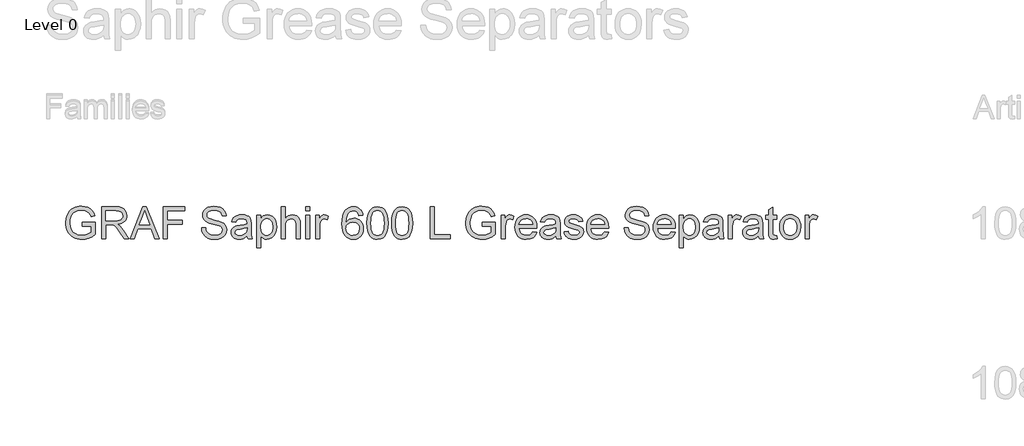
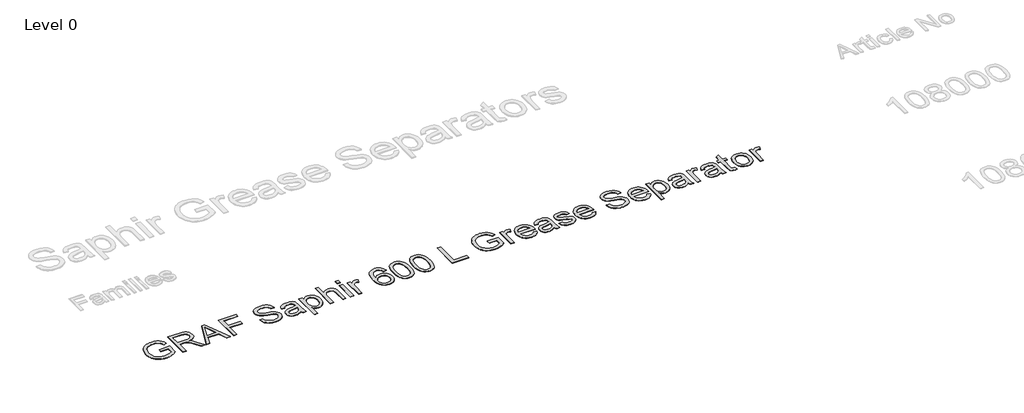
# One storey, part 5 of 15: 1 proxy.
"""IFC4 building model written with IfcOpenShell, lengths in millimetres."""

from ifc_helpers import new_model, si_unit, origin, origin_with_axes, place, context, project, spatial, polyline, outline, extrude, element, save

model = new_model("IFC4")

# Units and contexts
model_context = context("Model", 3, world=origin())
ifc_project = project(units=[si_unit("LENGTHUNIT", "METRE", prefix="MILLI")], contexts=[model_context])

# Site, building, storey
site = spatial("IfcSite", under=ifc_project)
building = spatial("IfcBuilding", under=site)
storey = spatial("IfcBuildingStorey", under=building, Name="Level 0", Elevation=0.0)

# Proxy
placement = place(None, origin())
element("IfcBuildingElementProxy", 1, Name="400mm Arial", ObjectType="400mm Arial", at=placement, inside=storey, context=model_context, shape_type="SweptSolid", body=[
    extrude(outline(polyline([(-14937.8149833, 10305.9861864), (-14937.8149833, 10356.2143415), (-14774.5734793, 10356.2143415), (-14774.5734793, 10206.0203856), (-14814.2434211, 10178.429236), (-14855.1641617, 10158.6371846), (-14897.2375993, 10146.717808), (-14940.3656318, 10142.7446824), (-14969.2167773, 10144.3235093), (-14996.7128907, 10149.05999), (-15022.8539722, 10156.9541245), (-15047.6400216, 10168.0059128), (-15070.2708957, 10182.0498079), (-15089.9464511, 10198.9202631), (-15106.6666877, 10218.6172783), (-15120.4316057, 10241.1408534), (-15131.182957, 10265.770553), (-15138.8624937, 10291.7859414), (-15143.4702157, 10319.1870187), (-15145.006123, 10347.9737848), (-15138.8870191, 10404.5662984), (-15131.2381393, 10431.3818302), (-15120.5297076, 10457.2102119), (-15106.9517963, 10480.9171408), (-15090.6944778, 10501.3683141), (-15071.7577521, 10518.5637317), (-15050.1416192, 10532.5033936), (-15026.3151286, 10543.2762047), (-15000.74733, 10550.9710698), (-14973.4382232, 10555.5879888), (-14944.3878083, 10557.1269618), (-14903.0133466, 10553.5585065), (-14865.8082141, 10542.8531404), (-14834.4769309, 10525.7834158), (-14810.7240167, 10503.1218849), (-14793.1515201, 10473.7771644), (-14780.3614894, 10436.6578711), (-14826.6655698, 10423.610323), (-14837.0030539, 10450.0855639), (-14849.5723554, 10470.0615563), (-14866.2006216, 10485.1201926), (-14888.7149997, 10496.8433655), (-14915.5581226, 10504.3849464), (-14945.1726232, 10506.8988067), (-14979.8393699, 10504.1887427), (-15009.478396, 10496.0585506), (-15033.9793369, 10483.5260373), (-15053.2318279, 10467.6090096), (-15068.0084214, 10449.1290708), (-15079.0816695, 10428.9078238), (-15090.8538933, 10390.9914528), (-15094.7779679, 10350.033924), (-15090.0568157, 10302.0007981), (-15075.8933588, 10262.4780091), (-15052.7167931, 10231.7475998), (-15020.9563142, 10210.091613), (-14983.78797, 10197.2525314), (-14944.3878083, 10192.9728375), (-14909.5984343, 10196.1979363), (-14875.6674516, 10205.8732328), (-14846.2001038, 10219.2028238), (-14824.8016344, 10233.390806), (-14824.8016344, 10305.9861864), (-14937.8149833, 10305.9861864)])), origin_with_axes(), (0.0, 0.0, 1.0), 5.0),
    extrude(outline(polyline([(-14692.9527273, 10149.0232018), (-14692.9527273, 10550.8484424), (-14519.8029349, 10550.8484424), (-14473.2658625, 10548.1383784), (-14439.4084563, 10540.0081863), (-14414.6622607, 10524.9986009), (-14395.4588206, 10501.6503569), (-14383.1347737, 10472.6980439), (-14379.0267581, 10440.8762513), (-14380.7282123, 10420.2380714), (-14385.832575, 10401.2921486), (-14394.3398462, 10384.0384831), (-14406.2500258, 10368.4770747), (-14421.716398, 10355.1045642), (-14440.892247, 10344.4175922), (-14463.7775727, 10336.4161588), (-14490.3723753, 10331.100264), (-14461.8247325, 10309.6159554), (-14421.1124584, 10257.9162724), (-14354.1088843, 10149.0232018), (-14412.4794942, 10149.0232018), (-14464.7677885, 10232.3116855), (-14502.5370066, 10287.4449339), (-14516.5778361, 10303.5213771), (-14529.0735612, 10313.4909791), (-14552.9613654, 10323.055911), (-14582.0976194, 10324.8217446), (-14642.7245723, 10324.8217446), (-14642.7245723, 10149.0232018), (-14692.9527273, 10149.0232018)]), holes=[polyline([(-14642.7245723, 10375.0498997), (-14530.2998345, 10375.0498997), (-14498.0120581, 10376.827996), (-14472.9592942, 10382.1622849), (-14454.0992106, 10391.4083857), (-14440.3894749, 10404.9219177), (-14432.0385536, 10421.268141), (-14429.2549132, 10439.0123159), (-14434.5646766, 10463.5132568), (-14450.493967, 10483.2562572), (-14462.6555327, 10490.8530204), (-14477.9011757, 10496.2792798), (-14517.6446939, 10500.6202873), (-14642.7245723, 10500.6202873), (-14642.7245723, 10375.0498997)])]), origin_with_axes(), (0.0, 0.0, 1.0), 5.0),
    extrude(outline(polyline([(-14337.9220765, 10149.0232018), (-14177.5255266, 10550.8484424), (-14134.7531133, 10550.8484424), (-13974.3565634, 10149.0232018), (-14027.4296726, 10149.0232018), (-14073.4394475, 10274.5935895), (-14238.9372943, 10274.5935895), (-14284.8489673, 10149.0232018), (-14337.9220765, 10149.0232018)]), holes=[polyline([(-14220.4941437, 10324.8217446), (-14091.7844963, 10324.8217446), (-14127.9840846, 10423.610323), (-14156.13932, 10500.6202873), (-14181.1552956, 10432.2432872), (-14220.4941437, 10324.8217446)])]), origin_with_axes(), (0.0, 0.0, 1.0), 5.0),
    extrude(outline(polyline([(-13920.6948431, 10149.0232018), (-13920.6948431, 10550.8484424), (-13650.7185095, 10550.8484424), (-13650.7185095, 10500.6202873), (-13870.466688, 10500.6202873), (-13870.466688, 10381.328419), (-13682.1111064, 10381.328419), (-13682.1111064, 10331.100264), (-13870.466688, 10331.100264), (-13870.466688, 10149.0232018), (-13920.6948431, 10149.0232018)])), origin_with_axes(), (0.0, 0.0, 1.0), 5.0),
    extrude(outline(polyline([(-13443.5273698, 10287.1506283), (-13393.2992148, 10287.1506283), (-13387.5357302, 10259.2774358), (-13377.112407, 10236.8734223), (-13360.8520228, 10219.0924592), (-13337.5773552, 10205.0884179), (-13309.1278143, 10196.0017326), (-13277.3428099, 10192.9728375), (-13249.3592528, 10195.2659686), (-13224.8583119, 10202.1453619), (-13205.0049469, 10213.034669), (-13190.9641174, 10227.3575413), (-13182.6131961, 10243.8018665), (-13179.8295557, 10261.0555321), (-13181.9142203, 10277.8677393), (-13188.1682143, 10292.3990781), (-13200.8724058, 10304.7967013), (-13222.3076634, 10315.2077618), (-13295.4426041, 10334.3866765), (-13343.4512044, 10347.0786053), (-13374.169351, 10359.1573975), (-13399.173064, 10376.0554438), (-13416.8927134, 10396.5342082), (-13427.4509267, 10420.1522323), (-13430.9703311, 10446.4680577), (-13426.6170608, 10475.8863545), (-13413.55725, 10503.3180886), (-13392.1342551, 10526.5682307), (-13362.6914328, 10543.4417516), (-13327.3502358, 10553.7056592), (-13288.2321169, 10557.1269618), (-13245.8521111, 10553.5462437), (-13208.769606, 10542.8040895), (-13178.3089768, 10525.1212282), (-13155.7945987, 10500.7183892), (-13141.5453027, 10471.1161513), (-13135.87992, 10437.8350935), (-13186.1080751, 10437.8350935), (-13195.3296504, 10467.8052134), (-13203.6928345, 10479.6632764), (-13214.557616, 10489.4366747), (-13244.6013123, 10502.5332737), (-13286.2700796, 10506.8988067), (-13328.9198656, 10502.5823247), (-13345.2231694, 10497.1867221), (-13358.178747, 10489.6328784), (-13375.1013187, 10470.5765911), (-13380.742176, 10447.9395856), (-13376.744525, 10428.6380436), (-13364.7515719, 10413.1134234), (-13336.4001328, 10399.2320095), (-13282.7384125, 10385.0562899), (-13227.3599095, 10371.5918089), (-13193.8581224, 10359.8441105), (-13165.2246405, 10341.621689), (-13145.2486482, 10319.1318364), (-13133.5132125, 10292.6198073), (-13129.6014006, 10262.3308563), (-13134.1018237, 10231.3674551), (-13147.6030929, 10202.2434638), (-13169.5533853, 10177.1784372), (-13199.4008778, 10158.39193), (-13235.2938978, 10146.6564943), (-13275.3807726, 10142.7446824), (-13324.5911208, 10146.9630626), (-13365.0949285, 10159.6182033), (-13397.3581794, 10180.7591553), (-13421.8468576, 10210.4349695), (-13437.5676815, 10246.5855069), (-13443.5273698, 10287.1506283)])), origin_with_axes(), (0.0, 0.0, 1.0), 5.0),
    extrude(outline(polyline([(-12872.1821059, 10186.6943181), (-12896.1802747, 10166.1174519), (-12920.889682, 10152.6529708), (-12946.8744136, 10145.2217545), (-12974.6985552, 10142.7446824), (-12997.0627148, 10144.2346045), (-13016.6738908, 10148.7043708), (-13033.5320833, 10156.1539812), (-13047.6372921, 10166.5834357), (-13058.7749195, 10179.3305469), (-13066.7303676, 10193.733127), (-13071.5036365, 10209.7911761), (-13073.0947262, 10227.5046941), (-13070.6912305, 10248.3268151), (-13063.4807434, 10267.2359496), (-13052.3584444, 10283.4227574), (-13038.219513, 10296.077898), (-13021.6035096, 10305.6428299), (-13003.0499943, 10312.5590114), (-12959.5908679, 10320.112855), (-12908.2345414, 10328.0591061), (-12872.4764115, 10337.3787834), (-12872.1821059, 10348.562396), (-12875.6401966, 10370.9786722), (-12886.0144689, 10385.6449011), (-12909.21556, 10396.5342082), (-12941.5401247, 10400.1639772), (-12971.4611936, 10397.7482188), (-12992.356891, 10390.5009435), (-13006.6061869, 10377.0977761), (-13016.5880517, 10356.2143415), (-13066.8162068, 10362.4928609), (-13058.0974035, 10389.9613832), (-13045.0866436, 10411.5437936), (-13026.5699165, 10428.0494324), (-13001.3332116, 10440.2876401), (-12970.4679122, 10447.8660092), (-12935.0654016, 10450.3921323), (-12901.1098934, 10448.1603148), (-12874.1931941, 10441.4648625), (-12853.8983707, 10431.3971586), (-12839.8084903, 10419.0485863), (-12830.4642876, 10403.7814835), (-12824.4064974, 10384.9581881), (-12821.9539508, 10341.0085524), (-12821.9539508, 10278.5176641), (-12819.4033023, 10191.2560549), (-12809.396912, 10149.0232018), (-12859.6250671, 10149.0232018), (-12867.6694201, 10166.4853339), (-12872.1821059, 10186.6943181)]), holes=[polyline([(-12872.1821059, 10287.1506283), (-12905.9291476, 10278.7874443), (-12953.2142467, 10271.7486354), (-12996.4281184, 10263.6061806), (-13007.6730447, 10258.0388997), (-13015.9994405, 10250.3624288), (-13021.1497884, 10241.1653789), (-13022.8665711, 10231.0363613), (-13019.1264375, 10216.1003523), (-13007.9060366, 10203.8621446), (-12989.4506232, 10195.6951643), (-12964.0054519, 10192.9728375), (-12937.0274389, 10195.9772071), (-12913.1886856, 10204.990316), (-12893.8626181, 10218.270856), (-12880.4226626, 10234.0775191), (-12874.4629742, 10250.3624288), (-12872.4764115, 10272.9258578), (-12872.1821059, 10287.1506283)])]), origin_with_axes(), (0.0, 0.0, 1.0), 5.0),
    extrude(outline(polyline([(-12752.8902376, 10036.0098529), (-12752.8902376, 10444.1136129), (-12702.6620825, 10444.1136129), (-12702.6620825, 10394.8664765), (-12686.279071, 10419.1589509), (-12667.9340221, 10436.5107183), (-12646.5478155, 10446.9217788), (-12621.0413305, 10450.3921323), (-12587.0735596, 10445.5360899), (-12557.3732199, 10430.9679629), (-12533.19111, 10407.570668), (-12515.7780289, 10376.227122), (-12505.2566039, 10339.2181933), (-12501.7494622, 10298.8247503), (-12505.710325, 10255.868396), (-12517.5929134, 10217.4492529), (-12537.0170828, 10185.5170957), (-12563.6026883, 10162.021699), (-12594.5660896, 10147.5639366), (-12627.1236461, 10142.7446824), (-12650.2143727, 10145.9697813), (-12670.8280272, 10155.6450777), (-12688.4741002, 10170.2499929), (-12702.6620825, 10188.263948), (-12702.6620825, 10036.0098529), (-12752.8902376, 10036.0098529)]), holes=[polyline([(-12702.6620825, 10294.2139626), (-12697.2296917, 10249.1852064), (-12690.4392032, 10231.7475998), (-12680.9325193, 10217.6945076), (-12656.8852996, 10199.153255), (-12643.1234473, 10194.5179419), (-12628.2027667, 10192.9728375), (-12613.0674882, 10194.5731242), (-12599.0542499, 10199.3739842), (-12586.1630517, 10207.3754176), (-12574.3938935, 10218.5774244), (-12564.5867726, 10233.13942), (-12557.5816863, 10251.2208201), (-12553.3786345, 10272.8216246), (-12551.9776173, 10297.9418335), (-12557.4467963, 10342.725335), (-12564.28327, 10360.2978317), (-12573.8543332, 10374.6574922), (-12597.8647648, 10393.7873559), (-12611.4702673, 10398.5698219), (-12626.1426275, 10400.1639772), (-12640.7690025, 10398.4686543), (-12654.5308548, 10393.3826858), (-12679.4609913, 10373.0388114), (-12689.6114687, 10357.9403212), (-12696.8618097, 10339.7700163), (-12701.2120143, 10318.5278968), (-12702.6620825, 10294.2139626)])]), origin_with_axes(), (0.0, 0.0, 1.0), 5.0),
    extrude(outline(polyline([(-12445.2427877, 10149.0232018), (-12445.2427877, 10550.8484424), (-12395.0146327, 10550.8484424), (-12395.0146327, 10403.1070332), (-12376.5653506, 10423.794264), (-12355.8474629, 10438.5708575), (-12332.8609696, 10447.4368136), (-12307.6058706, 10450.3921323), (-12277.2678687, 10447.1670334), (-12251.197298, 10437.491737), (-12230.6694827, 10422.1265323), (-12216.959747, 10401.8317089), (-12209.2342251, 10373.9462537), (-12206.6590511, 10335.8091535), (-12206.6590511, 10149.0232018), (-12256.8872062, 10149.0232018), (-12256.8872062, 10330.6097546), (-12260.8848572, 10362.0514025), (-12272.8778103, 10383.5847619), (-12292.2038777, 10396.0191734), (-12318.2008721, 10400.1639772), (-12339.4276632, 10397.368074), (-12359.3546046, 10388.9803645), (-12375.8602434, 10375.8101891), (-12386.8231269, 10358.6668881), (-12392.9667562, 10335.8827299), (-12395.0146327, 10305.7899827), (-12395.0146327, 10149.0232018), (-12445.2427877, 10149.0232018)])), origin_with_axes(), (0.0, 0.0, 1.0), 5.0),
    extrude(outline(polyline([(-12137.5953379, 10500.6202873), (-12137.5953379, 10550.8484424), (-12087.3671828, 10550.8484424), (-12087.3671828, 10500.6202873), (-12137.5953379, 10500.6202873)])), origin_with_axes(), (0.0, 0.0, 1.0), 5.0),
    extrude(outline(polyline([(-12137.5953379, 10149.0232018), (-12137.5953379, 10444.1136129), (-12087.3671828, 10444.1136129), (-12087.3671828, 10149.0232018), (-12137.5953379, 10149.0232018)])), origin_with_axes(), (0.0, 0.0, 1.0), 5.0),
    extrude(outline(polyline([(-12012.0249502, 10149.0232018), (-12012.0249502, 10444.1136129), (-11968.0753145, 10444.1136129), (-11968.0753145, 10400.4582828), (-11951.8394558, 10425.7685641), (-11936.8789213, 10440.6800476), (-11921.8693359, 10447.9641111), (-11905.4863244, 10450.3921323), (-11880.4703487, 10446.5171086), (-11855.0619656, 10434.8920375), (-11871.8373846, 10389.8632813), (-11889.4957204, 10397.5888032), (-11907.1540561, 10400.1639772), (-11922.1513788, 10397.6869051), (-11935.5545461, 10390.2556888), (-11946.3825395, 10378.434414), (-11953.6543403, 10362.7871665), (-11959.7611814, 10334.730033), (-11961.7967951, 10304.122251), (-11961.7967951, 10149.0232018), (-12012.0249502, 10149.0232018)])), origin_with_axes(), (0.0, 0.0, 1.0), 5.0),
    extrude(outline(polyline([(-11421.8441281, 10444.1136129), (-11472.0722832, 10437.8350935), (-11480.1656871, 10462.7284418), (-11491.104045, 10479.72459), (-11513.8882033, 10495.396363), (-11541.430302, 10500.6202873), (-11564.7785459, 10497.5791295), (-11586.7533638, 10488.455656), (-11605.6257101, 10469.2399532), (-11621.0399657, 10442.7892377), (-11631.4510262, 10405.3756388), (-11635.3137871, 10353.2712855), (-11615.1661165, 10376.778945), (-11591.0207949, 10393.3458976), (-11564.2267229, 10403.1683468), (-11536.1328013, 10406.4424966), (-11511.9997424, 10404.2045478), (-11489.7306189, 10397.4907014), (-11469.3254309, 10386.3009573), (-11450.7841784, 10370.6353157), (-11435.3760541, 10351.4257442), (-11424.3702511, 10329.6042105), (-11417.7667693, 10305.1707147), (-11415.5656087, 10278.1252567), (-11419.7104125, 10242.1586603), (-11432.1448239, 10208.8162888), (-11451.8387734, 10180.5384261), (-11477.7621913, 10159.7653561), (-11508.7378553, 10146.9998508), (-11543.588543, 10142.7446824), (-11573.5310717, 10145.5651111), (-11600.5734641, 10154.026397), (-11624.71572, 10168.1285401), (-11645.9578395, 10187.8715405), (-11663.2758845, 10214.089264), (-11675.6459166, 10247.6155765), (-11683.0679358, 10288.450478), (-11685.5419422, 10336.5939684), (-11682.79509, 10390.5683885), (-11674.5545333, 10436.6333457), (-11660.8202721, 10474.7888399), (-11641.5923065, 10505.0348713), (-11620.7517915, 10525.0783087), (-11596.5880758, 10539.3950496), (-11569.1011594, 10547.9850942), (-11538.2910423, 10550.8484424), (-11515.1573962, 10549.0764775), (-11494.2187793, 10543.7605826), (-11475.4751916, 10534.9007579), (-11458.9266332, 10522.4970033), (-11445.0206938, 10506.9662518), (-11434.2049631, 10488.7254362), (-11426.4794412, 10467.7745565), (-11421.8441281, 10444.1136129)]), holes=[polyline([(-11635.3137871, 10278.9100716), (-11632.4075194, 10256.6532109), (-11623.6887161, 10235.4018943), (-11610.1506587, 10217.1304219), (-11592.7866285, 10203.8130936), (-11571.8296175, 10195.6829015), (-11547.5126176, 10192.9728375), (-11514.3664499, 10198.5891693), (-11500.4513134, 10205.609584), (-11488.3081419, 10215.4381647), (-11478.4581015, 10227.6763724), (-11471.4223583, 10241.9256683), (-11465.7937638, 10276.457525), (-11471.3487819, 10309.6036927), (-11478.2925546, 10323.2245236), (-11488.0138363, 10334.8771858), (-11500.193796, 10344.2121914), (-11514.5136027, 10350.8800526), (-11549.5727568, 10356.2143415), (-11582.6698736, 10350.8800526), (-11610.3468624, 10334.8771858), (-11621.269892, 10323.3778078), (-11629.072056, 10310.2168294), (-11633.7533544, 10295.3942507), (-11635.3137871, 10278.9100716)])]), origin_with_axes(), (0.0, 0.0, 1.0), 5.0),
    extrude(outline(polyline([(-11371.615973, 10346.6984606), (-11367.9248903, 10411.0164961), (-11356.8516423, 10462.3115089), (-11338.5065934, 10501.3683141), (-11326.6485305, 10516.6016944), (-11313.0001084, 10528.9717264), (-11297.5153421, 10538.5427897), (-11280.1482463, 10545.3792634), (-11239.7670659, 10550.8484424), (-11208.8159274, 10547.6110809), (-11181.1021504, 10537.8989962), (-11157.9255847, 10522.0923331), (-11140.58608, 10500.5712364), (-11127.489481, 10473.519647), (-11117.0416323, 10441.121506), (-11110.1990272, 10399.9800362), (-11107.9181589, 10346.6984606), (-11111.5724533, 10282.7483071), (-11122.5353368, 10231.5759215), (-11140.770021, 10192.4823282), (-11152.6004929, 10177.2029627), (-11166.2397178, 10164.7685512), (-11181.7428782, 10155.1331086), (-11199.1651564, 10148.2506496), (-11239.7670659, 10142.7446824), (-11267.431792, 10145.1359154), (-11291.9572583, 10152.3096143), (-11313.343465, 10164.2657792), (-11331.5904119, 10181.0044099), (-11349.1015949, 10211.262704), (-11361.6095827, 10248.9644772), (-11369.1143754, 10294.1097294), (-11371.615973, 10346.6984606)]), holes=[polyline([(-11321.3878179, 10346.7965624), (-11319.91629, 10303.1320353), (-11315.501706, 10267.7877726), (-11308.1440661, 10240.7637744), (-11297.8433702, 10222.0600406), (-11285.3844333, 10209.3343892), (-11271.5520703, 10200.2446383), (-11256.3462812, 10194.7907877), (-11239.7670659, 10192.9728375), (-11223.1878507, 10194.7969191), (-11207.9820616, 10200.2691637), (-11194.1496985, 10209.3895715), (-11181.6907616, 10222.1581425), (-11171.3900658, 10240.8925331), (-11164.0324259, 10267.9103999), (-11159.6178419, 10303.2117431), (-11158.1463139, 10346.7965624), (-11159.568791, 10389.305327), (-11163.8362221, 10424.0272559), (-11170.9486074, 10450.9623494), (-11180.9059467, 10470.1106072), (-11193.1564171, 10483.4585923), (-11207.1481957, 10492.9928673), (-11222.8812824, 10498.7134323), (-11240.3556771, 10500.6202873), (-11256.8490532, 10498.9402929), (-11271.797325, 10493.9003096), (-11285.2004923, 10485.5003373), (-11297.0585553, 10473.7403762), (-11307.7026077, 10452.8937298), (-11315.3055023, 10424.7875454), (-11319.867239, 10389.4218229), (-11321.3878179, 10346.7965624)])]), origin_with_axes(), (0.0, 0.0, 1.0), 5.0),
    extrude(outline(polyline([(-11063.9685232, 10346.6984606), (-11060.2774405, 10411.0164961), (-11049.2041924, 10462.3115089), (-11030.8591436, 10501.3683141), (-11019.0010806, 10516.6016944), (-11005.3526586, 10528.9717264), (-10989.8678923, 10538.5427897), (-10972.5007964, 10545.3792634), (-10932.1196161, 10550.8484424), (-10901.1684776, 10547.6110809), (-10873.4547006, 10537.8989962), (-10850.2781349, 10522.0923331), (-10832.9386302, 10500.5712364), (-10819.8420312, 10473.519647), (-10809.3941825, 10441.121506), (-10802.5515774, 10399.9800362), (-10800.270709, 10346.6984606), (-10803.9250035, 10282.7483071), (-10814.887887, 10231.5759215), (-10833.1225712, 10192.4823282), (-10844.953043, 10177.2029627), (-10858.592268, 10164.7685512), (-10874.0954284, 10155.1331086), (-10891.5177066, 10148.2506496), (-10932.1196161, 10142.7446824), (-10959.7843421, 10145.1359154), (-10984.3098085, 10152.3096143), (-11005.6960151, 10164.2657792), (-11023.9429621, 10181.0044099), (-11041.4541451, 10211.262704), (-11053.9621329, 10248.9644772), (-11061.4669256, 10294.1097294), (-11063.9685232, 10346.6984606)]), holes=[polyline([(-11013.7403681, 10346.7965624), (-11012.2688401, 10303.1320353), (-11007.8542562, 10267.7877726), (-11000.4966163, 10240.7637744), (-10990.1959204, 10222.0600406), (-10977.7369835, 10209.3343892), (-10963.9046205, 10200.2446383), (-10948.6988314, 10194.7907877), (-10932.1196161, 10192.9728375), (-10915.5404009, 10194.7969191), (-10900.3346117, 10200.2691637), (-10886.5022487, 10209.3895715), (-10874.0433118, 10222.1581425), (-10863.7426159, 10240.8925331), (-10856.384976, 10267.9103999), (-10851.9703921, 10303.2117431), (-10850.4988641, 10346.7965624), (-10851.9213412, 10389.305327), (-10856.1887723, 10424.0272559), (-10863.3011575, 10450.9623494), (-10873.2584969, 10470.1106072), (-10885.5089673, 10483.4585923), (-10899.5007459, 10492.9928673), (-10915.2338325, 10498.7134323), (-10932.7082273, 10500.6202873), (-10949.2016034, 10498.9402929), (-10964.1498751, 10493.9003096), (-10977.5530425, 10485.5003373), (-10989.4111055, 10473.7403762), (-11000.0551579, 10452.8937298), (-11007.6580524, 10424.7875454), (-11012.2197892, 10389.4218229), (-11013.7403681, 10346.7965624)])]), origin_with_axes(), (0.0, 0.0, 1.0), 5.0),
    extrude(outline(polyline([(-10580.5225306, 10149.0232018), (-10580.5225306, 10550.8484424), (-10530.2943755, 10550.8484424), (-10530.2943755, 10199.2513569), (-10329.3817552, 10199.2513569), (-10329.3817552, 10149.0232018), (-10580.5225306, 10149.0232018)])), origin_with_axes(), (0.0, 0.0, 1.0), 5.0),
    extrude(outline(polyline([(-9927.5565146, 10305.9861864), (-9927.5565146, 10356.2143415), (-9764.3150106, 10356.2143415), (-9764.3150106, 10206.0203856), (-9803.9849524, 10178.429236), (-9844.905693, 10158.6371846), (-9886.9791305, 10146.717808), (-9930.1071631, 10142.7446824), (-9958.9583086, 10144.3235093), (-9986.454422, 10149.05999), (-10012.5955035, 10156.9541245), (-10037.3815529, 10168.0059128), (-10060.012427, 10182.0498079), (-10079.6879823, 10198.9202631), (-10096.408219, 10218.6172783), (-10110.173137, 10241.1408534), (-10120.9244883, 10265.770553), (-10128.604025, 10291.7859414), (-10133.211747, 10319.1870187), (-10134.7476543, 10347.9737848), (-10128.6285504, 10404.5662984), (-10120.9796706, 10431.3818302), (-10110.2712389, 10457.2102119), (-10096.6933276, 10480.9171408), (-10080.4360091, 10501.3683141), (-10061.4992834, 10518.5637317), (-10039.8831505, 10532.5033936), (-10016.0566599, 10543.2762047), (-9990.4888612, 10550.9710698), (-9963.1797545, 10555.5879888), (-9934.1293396, 10557.1269618), (-9892.7548779, 10553.5585065), (-9855.5497454, 10542.8531404), (-9824.2184622, 10525.7834158), (-9800.465548, 10503.1218849), (-9782.8930514, 10473.7771644), (-9770.1030207, 10436.6578711), (-9816.4071011, 10423.610323), (-9826.7445852, 10450.0855639), (-9839.3138867, 10470.0615563), (-9855.9421529, 10485.1201926), (-9878.456531, 10496.8433655), (-9905.2996539, 10504.3849464), (-9934.9141545, 10506.8988067), (-9969.5809012, 10504.1887427), (-9999.2199273, 10496.0585506), (-10023.7208681, 10483.5260373), (-10042.9733592, 10467.6090096), (-10057.7499527, 10449.1290708), (-10068.8232008, 10428.9078238), (-10080.5954246, 10390.9914528), (-10084.5194992, 10350.033924), (-10079.7983469, 10302.0007981), (-10065.6348901, 10262.4780091), (-10042.4583244, 10231.7475998), (-10010.6978455, 10210.091613), (-9973.5295013, 10197.2525314), (-9934.1293396, 10192.9728375), (-9899.3399656, 10196.1979363), (-9865.4089829, 10205.8732328), (-9835.9416351, 10219.2028238), (-9814.5431657, 10233.390806), (-9814.5431657, 10305.9861864), (-9927.5565146, 10305.9861864)])), origin_with_axes(), (0.0, 0.0, 1.0), 5.0),
    extrude(outline(polyline([(-9688.972778, 10149.0232018), (-9688.972778, 10444.1136129), (-9645.0231423, 10444.1136129), (-9645.0231423, 10400.4582828), (-9628.7872836, 10425.7685641), (-9613.8267491, 10440.6800476), (-9598.8171637, 10447.9641111), (-9582.4341522, 10450.3921323), (-9557.4181765, 10446.5171086), (-9532.0097934, 10434.8920375), (-9548.7852124, 10389.8632813), (-9566.4435481, 10397.5888032), (-9584.1018839, 10400.1639772), (-9599.0992066, 10397.6869051), (-9612.5023739, 10390.2556888), (-9623.3303673, 10378.434414), (-9630.6021681, 10362.7871665), (-9636.7090092, 10334.730033), (-9638.7446229, 10304.122251), (-9638.7446229, 10149.0232018), (-9688.972778, 10149.0232018)])), origin_with_axes(), (0.0, 0.0, 1.0), 5.0),
    extrude(outline(polyline([(-9294.014668, 10236.9224732), (-9244.7675316, 10230.6439538), (-9252.3183095, 10210.9193475), (-9262.5117065, 10193.5369232), (-9275.3477224, 10178.496681), (-9290.8263574, 10165.7986208), (-9308.7881958, 10155.7125228), (-9329.0738221, 10148.508167), (-9376.6164386, 10142.7446824), (-9407.782175, 10145.2309516), (-9435.5511343, 10152.689759), (-9459.9233164, 10165.1211048), (-9480.8987215, 10182.5249888), (-9497.766111, 10204.4170332), (-9509.8142464, 10230.31286), (-9517.0431276, 10260.2124692), (-9519.4527546, 10294.1158607), (-9517.0186021, 10329.1688835), (-9509.7161445, 10360.0648397), (-9497.5453818, 10386.8037294), (-9480.5063141, 10409.3855525), (-9459.5860913, 10427.3259312), (-9435.7718635, 10440.1404873), (-9409.0636306, 10447.829221), (-9379.4613927, 10450.3921323), (-9350.8125824, 10447.8353524), (-9324.9044928, 10440.1650128), (-9301.7371242, 10427.3811135), (-9281.3104764, 10409.4836544), (-9264.636225, 10386.9508822), (-9252.7260454, 10360.2610435), (-9245.5799376, 10329.4141382), (-9243.1979017, 10294.4101663), (-9243.4922073, 10280.8721089), (-9469.2245995, 10280.8721089), (-9466.3152661, 10260.8286715), (-9460.5303217, 10243.274569), (-9451.8697664, 10228.2098013), (-9440.3336002, 10215.6343684), (-9426.5594852, 10205.7199486), (-9411.1850834, 10198.6382202), (-9375.63542, 10192.9728375), (-9348.9026617, 10195.5970624), (-9326.3882836, 10203.4697371), (-9308.0922857, 10217.0813709), (-9294.014668, 10236.9224732)]), holes=[polyline([(-9469.2245995, 10331.100264), (-9293.4260568, 10331.100264), (-9300.219611, 10357.6368186), (-9313.5369392, 10376.6195295), (-9327.2344121, 10386.9202254), (-9342.820346, 10394.2778653), (-9360.2947408, 10398.6924492), (-9379.6575965, 10400.1639772), (-9413.5150027, 10395.4673504), (-9441.5108226, 10381.37747), (-9460.9717801, 10359.4149149), (-9469.2245995, 10331.100264)])]), origin_with_axes(), (0.0, 0.0, 1.0), 5.0),
    extrude(outline(polyline([(-9004.6141651, 10186.6943181), (-9028.6123339, 10166.1174519), (-9053.3217413, 10152.6529708), (-9079.3064729, 10145.2217545), (-9107.1306144, 10142.7446824), (-9129.4947741, 10144.2346045), (-9149.1059501, 10148.7043708), (-9165.9641425, 10156.1539812), (-9180.0693513, 10166.5834357), (-9191.2069787, 10179.3305469), (-9199.1624269, 10193.733127), (-9203.9356958, 10209.7911761), (-9205.5267854, 10227.5046941), (-9203.1232897, 10248.3268151), (-9195.9128026, 10267.2359496), (-9184.7905036, 10283.4227574), (-9170.6515723, 10296.077898), (-9154.0355688, 10305.6428299), (-9135.4820535, 10312.5590114), (-9092.0229272, 10320.112855), (-9040.6666006, 10328.0591061), (-9004.9084707, 10337.3787834), (-9004.6141651, 10348.562396), (-9008.0722559, 10370.9786722), (-9018.4465281, 10385.6449011), (-9041.6476193, 10396.5342082), (-9073.9721839, 10400.1639772), (-9103.8932529, 10397.7482188), (-9124.7889502, 10390.5009435), (-9139.0382461, 10377.0977761), (-9149.0201109, 10356.2143415), (-9199.248266, 10362.4928609), (-9190.5294627, 10389.9613832), (-9177.5187028, 10411.5437936), (-9159.0019757, 10428.0494324), (-9133.7652709, 10440.2876401), (-9102.8999715, 10447.8660092), (-9067.4974608, 10450.3921323), (-9033.5419527, 10448.1603148), (-9006.6252533, 10441.4648625), (-8986.3304299, 10431.3971586), (-8972.2405495, 10419.0485863), (-8962.8963469, 10403.7814835), (-8956.8385567, 10384.9581881), (-8954.38601, 10341.0085524), (-8954.38601, 10278.5176641), (-8951.8353615, 10191.2560549), (-8941.8289713, 10149.0232018), (-8992.0571263, 10149.0232018), (-9000.1014793, 10166.4853339), (-9004.6141651, 10186.6943181)]), holes=[polyline([(-9004.6141651, 10287.1506283), (-9038.3612068, 10278.7874443), (-9085.6463059, 10271.7486354), (-9128.8601776, 10263.6061806), (-9140.1051039, 10258.0388997), (-9148.4314998, 10250.3624288), (-9153.5818477, 10241.1653789), (-9155.2986303, 10231.0363613), (-9151.5584967, 10216.1003523), (-9140.3380959, 10203.8621446), (-9121.8826824, 10195.6951643), (-9096.4375111, 10192.9728375), (-9069.4594981, 10195.9772071), (-9045.6207448, 10204.990316), (-9026.2946774, 10218.270856), (-9012.8547218, 10234.0775191), (-9006.8950335, 10250.3624288), (-9004.9084707, 10272.9258578), (-9004.6141651, 10287.1506283)])]), origin_with_axes(), (0.0, 0.0, 1.0), 5.0),
    extrude(outline(polyline([(-8904.157855, 10236.9224732), (-8853.9296999, 10243.2009926), (-8846.0079743, 10221.7166841), (-8830.6795578, 10205.9222837), (-8807.8463486, 10196.2101991), (-8777.4102449, 10192.9728375), (-8747.3420231, 10195.9404189), (-8726.2010712, 10204.8431632), (-8713.6930833, 10217.7435585), (-8709.523754, 10232.704093), (-8713.7176088, 10245.5063864), (-8726.299173, 10255.267522), (-8777.9988561, 10269.5903944), (-8853.6353943, 10294.1649117), (-8872.7775208, 10306.513484), (-8886.646672, 10322.8597073), (-8895.0711697, 10342.1612493), (-8897.8793356, 10363.3757777), (-8895.6229927, 10382.8367352), (-8888.853964, 10400.8016393), (-8878.1853861, 10416.5592514), (-8864.2303957, 10429.3983331), (-8832.2982386, 10444.2607657), (-8811.414804, 10448.8592906), (-8789.0843669, 10450.3921323), (-8756.3919202, 10447.9273229), (-8727.9669047, 10440.5328948), (-8705.1091701, 10428.9323492), (-8689.118566, 10413.8491874), (-8678.5235646, 10394.1675007), (-8671.8526377, 10368.7713803), (-8722.0807928, 10362.4928609), (-8728.4206259, 10378.2995239), (-8740.9654019, 10390.2066379), (-8759.8377482, 10397.6746424), (-8785.1602923, 10400.1639772), (-8814.0022407, 10397.785007), (-8833.2302063, 10390.6480963), (-8844.0459369, 10380.3474004), (-8847.6511805, 10368.4770747), (-8841.6669667, 10353.8598967), (-8822.9295104, 10342.7743859), (-8779.6665878, 10332.0812826), (-8705.943036, 10308.4387331), (-8686.4698157, 10297.1324931), (-8671.7054849, 10281.6569238), (-8662.3980705, 10261.9629743), (-8659.295599, 10238.0015937), (-8662.9376307, 10213.2308727), (-8673.863726, 10189.9316797), (-8691.6569518, 10169.9311619), (-8715.9003753, 10155.0564665), (-8745.1837821, 10145.8226285), (-8778.0969579, 10142.7446824), (-8805.1301532, 10144.2284732), (-8828.7420459, 10148.6798453), (-8848.9326361, 10156.0987989), (-8865.7019237, 10166.4853339), (-8879.3993967, 10179.7903994), (-8890.3745429, 10195.9649444), (-8898.6273623, 10215.008969), (-8904.157855, 10236.9224732)])), origin_with_axes(), (0.0, 0.0, 1.0), 5.0),
    extrude(outline(polyline([(-8396.186396, 10236.9224732), (-8346.9392596, 10230.6439538), (-8354.4900375, 10210.9193475), (-8364.6834345, 10193.5369232), (-8377.5194504, 10178.496681), (-8392.9980854, 10165.7986208), (-8410.9599238, 10155.7125228), (-8431.2455502, 10148.508167), (-8478.7881667, 10142.7446824), (-8509.953903, 10145.2309516), (-8537.7228623, 10152.689759), (-8562.0950445, 10165.1211048), (-8583.0704496, 10182.5249888), (-8599.937839, 10204.4170332), (-8611.9859744, 10230.31286), (-8619.2148556, 10260.2124692), (-8621.6244827, 10294.1158607), (-8619.1903301, 10329.1688835), (-8611.8878725, 10360.0648397), (-8599.7171098, 10386.8037294), (-8582.6780421, 10409.3855525), (-8561.7578193, 10427.3259312), (-8537.9435915, 10440.1404873), (-8511.2353586, 10447.829221), (-8481.6331208, 10450.3921323), (-8452.9843104, 10447.8353524), (-8427.0762209, 10440.1650128), (-8403.9088522, 10427.3811135), (-8383.4822045, 10409.4836544), (-8366.807953, 10386.9508822), (-8354.8977734, 10360.2610435), (-8347.7516657, 10329.4141382), (-8345.3696298, 10294.4101663), (-8345.6639353, 10280.8721089), (-8571.3963276, 10280.8721089), (-8568.4869941, 10260.8286715), (-8562.7020498, 10243.274569), (-8554.0414945, 10228.2098013), (-8542.5053282, 10215.6343684), (-8528.7312132, 10205.7199486), (-8513.3568115, 10198.6382202), (-8477.807148, 10192.9728375), (-8451.0743897, 10195.5970624), (-8428.5600116, 10203.4697371), (-8410.2640137, 10217.0813709), (-8396.186396, 10236.9224732)]), holes=[polyline([(-8571.3963276, 10331.100264), (-8395.5977848, 10331.100264), (-8402.391339, 10357.6368186), (-8415.7086672, 10376.6195295), (-8429.4061402, 10386.9202254), (-8444.992074, 10394.2778653), (-8462.4664688, 10398.6924492), (-8481.8293245, 10400.1639772), (-8515.6867308, 10395.4673504), (-8543.6825506, 10381.37747), (-8563.1435082, 10359.4149149), (-8571.3963276, 10331.100264)])]), origin_with_axes(), (0.0, 0.0, 1.0), 5.0),
    extrude(outline(polyline([(-8150.7355288, 10287.1506283), (-8100.5073738, 10287.1506283), (-8094.7438892, 10259.2774358), (-8084.320566, 10236.8734223), (-8068.0601818, 10219.0924592), (-8044.7855142, 10205.0884179), (-8016.3359733, 10196.0017326), (-7984.5509689, 10192.9728375), (-7956.5674118, 10195.2659686), (-7932.0664709, 10202.1453619), (-7912.2131059, 10213.034669), (-7898.1722764, 10227.3575413), (-7889.8213551, 10243.8018665), (-7887.0377147, 10261.0555321), (-7889.1223793, 10277.8677393), (-7895.3763732, 10292.3990781), (-7908.0805648, 10304.7967013), (-7929.5158224, 10315.2077618), (-8002.650763, 10334.3866765), (-8050.6593634, 10347.0786053), (-8081.37751, 10359.1573975), (-8106.381223, 10376.0554438), (-8124.1008724, 10396.5342082), (-8134.6590856, 10420.1522323), (-8138.1784901, 10446.4680577), (-8133.8252198, 10475.8863545), (-8120.765409, 10503.3180886), (-8099.3424141, 10526.5682307), (-8069.8995918, 10543.4417516), (-8034.5583948, 10553.7056592), (-7995.4402759, 10557.1269618), (-7953.0602701, 10553.5462437), (-7915.977765, 10542.8040895), (-7885.5171358, 10525.1212282), (-7863.0027577, 10500.7183892), (-7848.7534617, 10471.1161513), (-7843.088079, 10437.8350935), (-7893.3162341, 10437.8350935), (-7902.5378094, 10467.8052134), (-7910.9009934, 10479.6632764), (-7921.765775, 10489.4366747), (-7951.8094713, 10502.5332737), (-7993.4782386, 10506.8988067), (-8036.1280246, 10502.5823247), (-8052.4313284, 10497.1867221), (-8065.386906, 10489.6328784), (-8082.3094777, 10470.5765911), (-8087.950335, 10447.9395856), (-8083.952684, 10428.6380436), (-8071.9597309, 10413.1134234), (-8043.6082918, 10399.2320095), (-7989.9465715, 10385.0562899), (-7934.5680685, 10371.5918089), (-7901.0662814, 10359.8441105), (-7872.4327995, 10341.621689), (-7852.4568071, 10319.1318364), (-7840.7213715, 10292.6198073), (-7836.8095596, 10262.3308563), (-7841.3099827, 10231.3674551), (-7854.8112519, 10202.2434638), (-7876.7615443, 10177.1784372), (-7906.6090368, 10158.39193), (-7942.5020568, 10146.6564943), (-7982.5889316, 10142.7446824), (-8031.7992798, 10146.9630626), (-8072.3030875, 10159.6182033), (-8104.5663384, 10180.7591553), (-8129.0550166, 10210.4349695), (-8144.7758405, 10246.5855069), (-8150.7355288, 10287.1506283)])), origin_with_axes(), (0.0, 0.0, 1.0), 5.0),
    extrude(outline(polyline([(-7561.1433179, 10236.9224732), (-7511.8961815, 10230.6439538), (-7519.4469594, 10210.9193475), (-7529.6403564, 10193.5369232), (-7542.4763723, 10178.496681), (-7557.9550073, 10165.7986208), (-7575.9168457, 10155.7125228), (-7596.202472, 10148.508167), (-7643.7450885, 10142.7446824), (-7674.9108249, 10145.2309516), (-7702.6797842, 10152.689759), (-7727.0519664, 10165.1211048), (-7748.0273714, 10182.5249888), (-7764.8947609, 10204.4170332), (-7776.9428963, 10230.31286), (-7784.1717775, 10260.2124692), (-7786.5814045, 10294.1158607), (-7784.147252, 10329.1688835), (-7776.8447944, 10360.0648397), (-7764.6740317, 10386.8037294), (-7747.634964, 10409.3855525), (-7726.7147412, 10427.3259312), (-7702.9005134, 10440.1404873), (-7676.1922805, 10447.829221), (-7646.5900426, 10450.3921323), (-7617.9412323, 10447.8353524), (-7592.0331428, 10440.1650128), (-7568.8657741, 10427.3811135), (-7548.4391263, 10409.4836544), (-7531.7648749, 10386.9508822), (-7519.8546953, 10360.2610435), (-7512.7085876, 10329.4141382), (-7510.3265516, 10294.4101663), (-7510.6208572, 10280.8721089), (-7736.3532495, 10280.8721089), (-7733.443916, 10260.8286715), (-7727.6589716, 10243.274569), (-7718.9984163, 10228.2098013), (-7707.4622501, 10215.6343684), (-7693.6881351, 10205.7199486), (-7678.3137334, 10198.6382202), (-7642.7640699, 10192.9728375), (-7616.0313116, 10195.5970624), (-7593.5169335, 10203.4697371), (-7575.2209356, 10217.0813709), (-7561.1433179, 10236.9224732)]), holes=[polyline([(-7736.3532495, 10331.100264), (-7560.5547067, 10331.100264), (-7567.3482609, 10357.6368186), (-7580.6655891, 10376.6195295), (-7594.3630621, 10386.9202254), (-7609.9489959, 10394.2778653), (-7627.4233907, 10398.6924492), (-7646.7862464, 10400.1639772), (-7680.6436527, 10395.4673504), (-7708.6394725, 10381.37747), (-7728.10043, 10359.4149149), (-7736.3532495, 10331.100264)])]), origin_with_axes(), (0.0, 0.0, 1.0), 5.0),
    extrude(outline(polyline([(-7460.0983966, 10036.0098529), (-7460.0983966, 10444.1136129), (-7409.8702415, 10444.1136129), (-7409.8702415, 10394.8664765), (-7393.48723, 10419.1589509), (-7375.1421811, 10436.5107183), (-7353.7559745, 10446.9217788), (-7328.2494895, 10450.3921323), (-7294.2817186, 10445.5360899), (-7264.5813789, 10430.9679629), (-7240.399269, 10407.570668), (-7222.9861879, 10376.227122), (-7212.4647629, 10339.2181933), (-7208.9576212, 10298.8247503), (-7212.918484, 10255.868396), (-7224.8010724, 10217.4492529), (-7244.2252418, 10185.5170957), (-7270.8108473, 10162.021699), (-7301.7742486, 10147.5639366), (-7334.3318051, 10142.7446824), (-7357.4225317, 10145.9697813), (-7378.0361862, 10155.6450777), (-7395.6822592, 10170.2499929), (-7409.8702415, 10188.263948), (-7409.8702415, 10036.0098529), (-7460.0983966, 10036.0098529)]), holes=[polyline([(-7409.8702415, 10294.2139626), (-7404.4378507, 10249.1852064), (-7397.6473622, 10231.7475998), (-7388.1406783, 10217.6945076), (-7364.0934585, 10199.153255), (-7350.3316062, 10194.5179419), (-7335.4109257, 10192.9728375), (-7320.2756472, 10194.5731242), (-7306.2624089, 10199.3739842), (-7293.3712107, 10207.3754176), (-7281.6020525, 10218.5774244), (-7271.7949316, 10233.13942), (-7264.7898453, 10251.2208201), (-7260.5867935, 10272.8216246), (-7259.1857763, 10297.9418335), (-7264.6549553, 10342.725335), (-7271.491429, 10360.2978317), (-7281.0624922, 10374.6574922), (-7305.0729238, 10393.7873559), (-7318.6784262, 10398.5698219), (-7333.3507865, 10400.1639772), (-7347.9771615, 10398.4686543), (-7361.7390138, 10393.3826858), (-7386.6691503, 10373.0388114), (-7396.8196277, 10357.9403212), (-7404.0699687, 10339.7700163), (-7408.4201733, 10318.5278968), (-7409.8702415, 10294.2139626)])]), origin_with_axes(), (0.0, 0.0, 1.0), 5.0),
    extrude(outline(polyline([(-6964.0953652, 10186.6943181), (-6988.093534, 10166.1174519), (-7012.8029414, 10152.6529708), (-7038.7876729, 10145.2217545), (-7066.6118145, 10142.7446824), (-7088.9759741, 10144.2346045), (-7108.5871502, 10148.7043708), (-7125.4453426, 10156.1539812), (-7139.5505514, 10166.5834357), (-7150.6881788, 10179.3305469), (-7158.643627, 10193.733127), (-7163.4168959, 10209.7911761), (-7165.0079855, 10227.5046941), (-7162.6044898, 10248.3268151), (-7155.3940027, 10267.2359496), (-7144.2717037, 10283.4227574), (-7130.1327723, 10296.077898), (-7113.5167689, 10305.6428299), (-7094.9632536, 10312.5590114), (-7051.5041272, 10320.112855), (-7000.1478007, 10328.0591061), (-6964.3896708, 10337.3787834), (-6964.0953652, 10348.562396), (-6967.5534559, 10370.9786722), (-6977.9277282, 10385.6449011), (-7001.1288194, 10396.5342082), (-7033.453384, 10400.1639772), (-7063.374453, 10397.7482188), (-7084.2701503, 10390.5009435), (-7098.5194462, 10377.0977761), (-7108.501311, 10356.2143415), (-7158.7294661, 10362.4928609), (-7150.0106628, 10389.9613832), (-7136.9999029, 10411.5437936), (-7118.4831758, 10428.0494324), (-7093.246471, 10440.2876401), (-7062.3811716, 10447.8660092), (-7026.9786609, 10450.3921323), (-6993.0231527, 10448.1603148), (-6966.1064534, 10441.4648625), (-6945.81163, 10431.3971586), (-6931.7217496, 10419.0485863), (-6922.3775469, 10403.7814835), (-6916.3197568, 10384.9581881), (-6913.8672101, 10341.0085524), (-6913.8672101, 10278.5176641), (-6911.3165616, 10191.2560549), (-6901.3101713, 10149.0232018), (-6951.5383264, 10149.0232018), (-6959.5826794, 10166.4853339), (-6964.0953652, 10186.6943181)]), holes=[polyline([(-6964.0953652, 10287.1506283), (-6997.8424069, 10278.7874443), (-7045.127506, 10271.7486354), (-7088.3413777, 10263.6061806), (-7099.586304, 10258.0388997), (-7107.9126998, 10250.3624288), (-7113.0630478, 10241.1653789), (-7114.7798304, 10231.0363613), (-7111.0396968, 10216.1003523), (-7099.8192959, 10203.8621446), (-7081.3638825, 10195.6951643), (-7055.9187112, 10192.9728375), (-7028.9406982, 10195.9772071), (-7005.1019449, 10204.990316), (-6985.7758774, 10218.270856), (-6972.3359219, 10234.0775191), (-6966.3762336, 10250.3624288), (-6964.3896708, 10272.9258578), (-6964.0953652, 10287.1506283)])]), origin_with_axes(), (0.0, 0.0, 1.0), 5.0),
    extrude(outline(polyline([(-6844.8034969, 10149.0232018), (-6844.8034969, 10444.1136129), (-6800.8538612, 10444.1136129), (-6800.8538612, 10400.4582828), (-6784.6180025, 10425.7685641), (-6769.657468, 10440.6800476), (-6754.6478826, 10447.9641111), (-6738.2648711, 10450.3921323), (-6713.2488954, 10446.5171086), (-6687.8405123, 10434.8920375), (-6704.6159313, 10389.8632813), (-6722.274267, 10397.5888032), (-6739.9326028, 10400.1639772), (-6754.9299255, 10397.6869051), (-6768.3330928, 10390.2556888), (-6779.1610862, 10378.434414), (-6786.432887, 10362.7871665), (-6792.5397281, 10334.730033), (-6794.5753418, 10304.122251), (-6794.5753418, 10149.0232018), (-6844.8034969, 10149.0232018)])), origin_with_axes(), (0.0, 0.0, 1.0), 5.0),
    extrude(outline(polyline([(-6468.0923338, 10186.6943181), (-6492.0905026, 10166.1174519), (-6516.79991, 10152.6529708), (-6542.7846416, 10145.2217545), (-6570.6087832, 10142.7446824), (-6592.9729428, 10144.2346045), (-6612.5841188, 10148.7043708), (-6629.4423112, 10156.1539812), (-6643.5475201, 10166.5834357), (-6654.6851475, 10179.3305469), (-6662.6405956, 10193.733127), (-6667.4138645, 10209.7911761), (-6669.0049541, 10227.5046941), (-6666.6014584, 10248.3268151), (-6659.3909713, 10267.2359496), (-6648.2686723, 10283.4227574), (-6634.129741, 10296.077898), (-6617.5137375, 10305.6428299), (-6598.9602222, 10312.5590114), (-6555.5010959, 10320.112855), (-6504.1447694, 10328.0591061), (-6468.3866394, 10337.3787834), (-6468.0923338, 10348.562396), (-6471.5504246, 10370.9786722), (-6481.9246968, 10385.6449011), (-6505.125788, 10396.5342082), (-6537.4503527, 10400.1639772), (-6567.3714216, 10397.7482188), (-6588.2671189, 10390.5009435), (-6602.5164149, 10377.0977761), (-6612.4982797, 10356.2143415), (-6662.7264347, 10362.4928609), (-6654.0076315, 10389.9613832), (-6640.9968716, 10411.5437936), (-6622.4801445, 10428.0494324), (-6597.2434396, 10440.2876401), (-6566.3781402, 10447.8660092), (-6530.9756295, 10450.3921323), (-6497.0201214, 10448.1603148), (-6470.1034221, 10441.4648625), (-6449.8085987, 10431.3971586), (-6435.7187183, 10419.0485863), (-6426.3745156, 10403.7814835), (-6420.3167254, 10384.9581881), (-6417.8641788, 10341.0085524), (-6417.8641788, 10278.5176641), (-6415.3135303, 10191.2560549), (-6405.30714, 10149.0232018), (-6455.5352951, 10149.0232018), (-6463.579648, 10166.4853339), (-6468.0923338, 10186.6943181)]), holes=[polyline([(-6468.0923338, 10287.1506283), (-6501.8393755, 10278.7874443), (-6549.1244746, 10271.7486354), (-6592.3383463, 10263.6061806), (-6603.5832727, 10258.0388997), (-6611.9096685, 10250.3624288), (-6617.0600164, 10241.1653789), (-6618.7767991, 10231.0363613), (-6615.0366654, 10216.1003523), (-6603.8162646, 10203.8621446), (-6585.3608512, 10195.6951643), (-6559.9156798, 10192.9728375), (-6532.9376668, 10195.9772071), (-6509.0989136, 10204.990316), (-6489.7728461, 10218.270856), (-6476.3328905, 10234.0775191), (-6470.3732022, 10250.3624288), (-6468.3866394, 10272.9258578), (-6468.0923338, 10287.1506283)])]), origin_with_axes(), (0.0, 0.0, 1.0), 5.0),
    extrude(outline(polyline([(-6242.065636, 10190.9126983), (-6235.7871166, 10147.5516738), (-6273.360131, 10142.7446824), (-6297.4686645, 10144.8293471), (-6315.4458313, 10151.083341), (-6328.1500229, 10160.7218493), (-6336.4396305, 10172.960057), (-6341.0013672, 10193.9783816), (-6342.5219461, 10229.9572408), (-6342.5219461, 10393.8854578), (-6380.1930624, 10393.8854578), (-6380.1930624, 10444.1136129), (-6342.5219461, 10444.1136129), (-6342.5219461, 10515.8260765), (-6292.2937911, 10545.354738), (-6292.2937911, 10444.1136129), (-6242.065636, 10444.1136129), (-6242.065636, 10393.8854578), (-6292.2937911, 10393.8854578), (-6292.2937911, 10231.4287687), (-6289.6450407, 10205.5298763), (-6281.0611275, 10196.3573519), (-6263.942352, 10192.9728375), (-6242.065636, 10190.9126983)])), origin_with_axes(), (0.0, 0.0, 1.0), 5.0),
    extrude(outline(polyline([(-6204.3945197, 10296.5684074), (-6201.6783243, 10334.7852153), (-6193.5297381, 10367.7167852), (-6179.9487611, 10395.3631172), (-6160.9353933, 10417.7242111), (-6141.7932668, 10432.0164266), (-6120.6645776, 10442.225152), (-6097.5493256, 10448.3503872), (-6072.4475107, 10450.3921323), (-6044.7367995, 10447.9058631), (-6019.6809699, 10440.4470557), (-5997.2800221, 10428.0157099), (-5977.533956, 10410.6118259), (-5961.4176589, 10388.8240147), (-5949.9060182, 10363.2408876), (-5942.9990337, 10333.8624446), (-5940.6967055, 10300.6886857), (-5944.767933, 10249.9454958), (-5956.9816152, 10211.3178863), (-5976.982133, 10182.3900988), (-6004.4138671, 10160.7463747), (-6036.9959491, 10147.2451055), (-6072.4475107, 10142.7446824), (-6100.5628922, 10145.2217545), (-6125.8517137, 10152.6529708), (-6148.3139752, 10165.0383313), (-6167.9496767, 10182.3778361), (-6183.8942955, 10204.3771794), (-6195.2833089, 10230.7420557), (-6202.116717, 10261.472465), (-6204.3945197, 10296.5684074)]), holes=[polyline([(-6154.1663646, 10296.6665092), (-6152.7132307, 10272.3035241), (-6148.3538291, 10251.2085573), (-6141.0881597, 10233.381609), (-6130.9162225, 10218.822679), (-6118.5431247, 10207.5133734), (-6104.6739735, 10199.4352979), (-6089.3087689, 10194.5884526), (-6072.4475107, 10192.9728375), (-6055.6720918, 10194.5976497), (-6040.3682008, 10199.4720861), (-6026.5358378, 10207.5961468), (-6014.1750027, 10218.9698318), (-6004.0030655, 10233.6728489), (-5996.7373961, 10251.7849058), (-5992.3779945, 10273.3060025), (-5990.9248606, 10298.2361391), (-5992.3871915, 10321.826572), (-5996.7741843, 10342.3697158), (-6004.085839, 10359.8655703), (-6014.3221555, 10374.3141357), (-6026.7289758, 10385.6234413), (-6040.5521418, 10393.7015168), (-6055.7916534, 10398.5483621), (-6072.4475107, 10400.1639772), (-6089.3087689, 10398.5544935), (-6104.6739735, 10393.7260423), (-6118.5431247, 10385.6786236), (-6130.9162225, 10374.4122375), (-6141.0881597, 10359.8962271), (-6148.3538291, 10342.0999356), (-6152.7132307, 10321.023363), (-6154.1663646, 10296.6665092)])]), origin_with_axes(), (0.0, 0.0, 1.0), 5.0),
    extrude(outline(polyline([(-5884.1900311, 10149.0232018), (-5884.1900311, 10444.1136129), (-5840.2403954, 10444.1136129), (-5840.2403954, 10400.4582828), (-5824.0045367, 10425.7685641), (-5809.0440022, 10440.6800476), (-5794.0344168, 10447.9641111), (-5777.6514053, 10450.3921323), (-5752.6354296, 10446.5171086), (-5727.2270465, 10434.8920375), (-5744.0024655, 10389.8632813), (-5761.6608012, 10397.5888032), (-5779.319137, 10400.1639772), (-5794.3164597, 10397.6869051), (-5807.719627, 10390.2556888), (-5818.5476204, 10378.434414), (-5825.8194212, 10362.7871665), (-5831.9262623, 10334.730033), (-5833.961876, 10304.122251), (-5833.961876, 10149.0232018), (-5884.1900311, 10149.0232018)])), origin_with_axes(), (0.0, 0.0, 1.0), 5.0),
])

save(model, "model.ifc")
